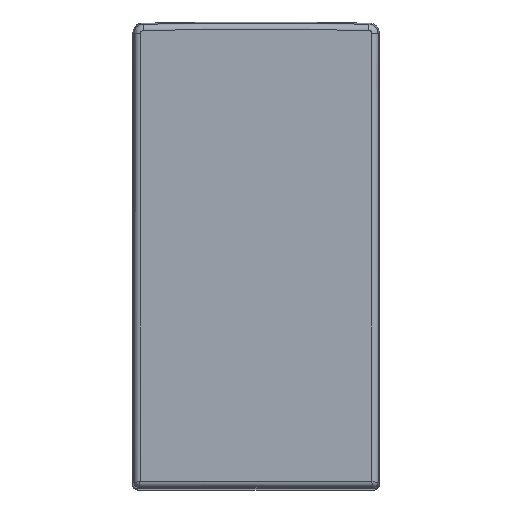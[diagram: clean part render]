
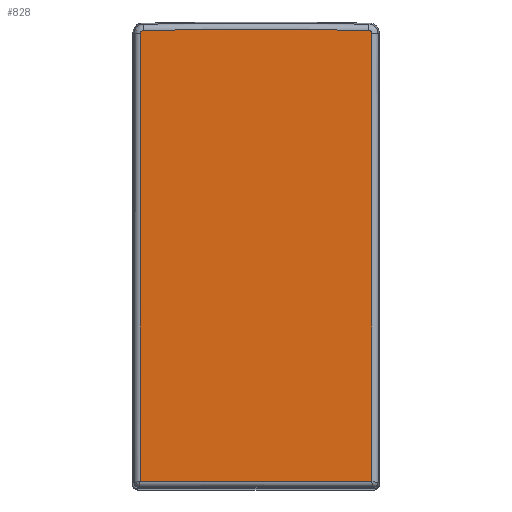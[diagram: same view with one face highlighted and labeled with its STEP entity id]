
A CAD part, top view. The second image highlights one B-rep face of the part: STEP entity #828.
In plain terms, the highlighted planar face has unit normal (0, 0, 1).
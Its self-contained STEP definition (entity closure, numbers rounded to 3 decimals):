
#460=FACE_OUTER_BOUND('',#1418,.T.);
#828=ADVANCED_FACE('',(#460),#1090,.F.);
#1090=PLANE('',#6291);
#1184=B_SPLINE_CURVE_WITH_KNOTS('',3,(#9793,#9794,#9795,#9796,#9797,#9798,
#9799,#9800,#9801,#9802,#9803,#9804),.UNSPECIFIED.,.F.,.F.,(4,2,2,2,2,4),
(0.,0.218,0.437,0.655,0.873,
1.),.UNSPECIFIED.);
#1185=B_SPLINE_CURVE_WITH_KNOTS('',3,(#9808,#9809,#9810,#9811,#9812,#9813,
#9814,#9815,#9816,#9817,#9818,#9819),.UNSPECIFIED.,.F.,.F.,(4,2,2,2,2,4),
(0.,0.218,0.437,0.655,0.873,
1.),.UNSPECIFIED.);
#1418=EDGE_LOOP('',(#3515,#3516,#3517,#3518,#3519,#3520));
#1882=LINE('',#9786,#2388);
#1883=LINE('',#9789,#2389);
#1884=LINE('',#9791,#2390);
#2388=VECTOR('',#7553,1.);
#2389=VECTOR('',#7554,1.);
#2390=VECTOR('',#7555,1.);
#3515=ORIENTED_EDGE('',*,*,#5269,.T.);
#3516=ORIENTED_EDGE('',*,*,#5270,.T.);
#3517=ORIENTED_EDGE('',*,*,#5271,.T.);
#3518=ORIENTED_EDGE('',*,*,#5272,.T.);
#3519=ORIENTED_EDGE('',*,*,#5273,.T.);
#3520=ORIENTED_EDGE('',*,*,#5274,.T.);
#4597=VERTEX_POINT('',#9787);
#4598=VERTEX_POINT('',#9788);
#4599=VERTEX_POINT('',#9790);
#4600=VERTEX_POINT('',#9792);
#4601=VERTEX_POINT('',#9805);
#4602=VERTEX_POINT('',#9807);
#5269=EDGE_CURVE('',#4597,#4598,#1882,.T.);
#5270=EDGE_CURVE('',#4598,#4599,#1883,.T.);
#5271=EDGE_CURVE('',#4599,#4600,#1884,.T.);
#5272=EDGE_CURVE('',#4600,#4601,#1184,.T.);
#5273=EDGE_CURVE('',#4601,#4602,#5810,.T.);
#5274=EDGE_CURVE('',#4602,#4597,#1185,.T.);
#5810=CIRCLE('',#6290,307.692);
#6290=AXIS2_PLACEMENT_3D('',#9806,#7556,#7557);
#6291=AXIS2_PLACEMENT_3D('',#9820,#7558,#7559);
#7553=DIRECTION('',(0.,-1.,0.));
#7554=DIRECTION('',(1.,0.,0.));
#7555=DIRECTION('',(0.,1.,0.));
#7556=DIRECTION('',(0.,0.,1.));
#7557=DIRECTION('',(1.,0.,0.));
#7558=DIRECTION('',(0.,0.,-1.));
#7559=DIRECTION('',(-1.,0.,0.));
#9786=CARTESIAN_POINT('',(-7.38,14.11,52.));
#9787=CARTESIAN_POINT('',(-7.38,14.126,52.));
#9788=CARTESIAN_POINT('',(-7.38,-14.41,52.));
#9789=CARTESIAN_POINT('',(0.,-14.41,52.));
#9790=CARTESIAN_POINT('',(7.38,-14.41,52.));
#9791=CARTESIAN_POINT('',(7.38,-293.282,52.));
#9792=CARTESIAN_POINT('',(7.38,14.126,52.));
#9793=CARTESIAN_POINT('',(7.38,14.126,52.));
#9794=CARTESIAN_POINT('',(7.38,14.148,52.));
#9795=CARTESIAN_POINT('',(7.376,14.171,52.));
#9796=CARTESIAN_POINT('',(7.361,14.213,52.));
#9797=CARTESIAN_POINT('',(7.35,14.234,52.));
#9798=CARTESIAN_POINT('',(7.322,14.268,52.));
#9799=CARTESIAN_POINT('',(7.305,14.284,52.));
#9800=CARTESIAN_POINT('',(7.267,14.307,52.));
#9801=CARTESIAN_POINT('',(7.246,14.316,52.));
#9802=CARTESIAN_POINT('',(7.211,14.324,52.));
#9803=CARTESIAN_POINT('',(7.198,14.326,52.));
#9804=CARTESIAN_POINT('',(7.185,14.326,52.));
#9805=CARTESIAN_POINT('',(7.185,14.326,52.));
#9806=CARTESIAN_POINT('',(0.,-293.282,52.));
#9807=CARTESIAN_POINT('',(-7.185,14.326,52.));
#9808=CARTESIAN_POINT('',(-7.185,14.326,52.));
#9809=CARTESIAN_POINT('',(-7.207,14.325,52.));
#9810=CARTESIAN_POINT('',(-7.23,14.321,52.));
#9811=CARTESIAN_POINT('',(-7.271,14.305,52.));
#9812=CARTESIAN_POINT('',(-7.291,14.294,52.));
#9813=CARTESIAN_POINT('',(-7.326,14.265,52.));
#9814=CARTESIAN_POINT('',(-7.34,14.247,52.));
#9815=CARTESIAN_POINT('',(-7.363,14.209,52.));
#9816=CARTESIAN_POINT('',(-7.371,14.187,52.));
#9817=CARTESIAN_POINT('',(-7.378,14.153,52.));
#9818=CARTESIAN_POINT('',(-7.38,14.139,52.));
#9819=CARTESIAN_POINT('',(-7.38,14.126,52.));
#9820=CARTESIAN_POINT('',(0.,-293.282,52.));
